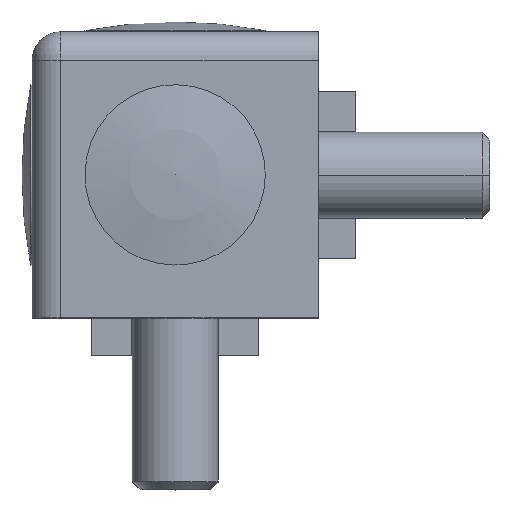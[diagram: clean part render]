
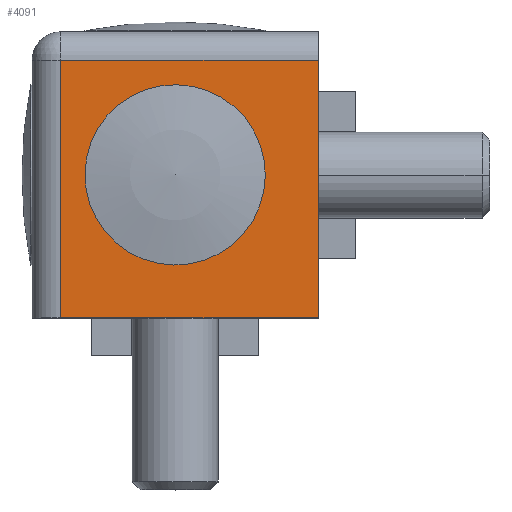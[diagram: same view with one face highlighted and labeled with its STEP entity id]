
A CAD part, top view. The second image highlights one B-rep face of the part: STEP entity #4091.
In plain terms, the highlighted planar face has unit normal (0, 0, 1).
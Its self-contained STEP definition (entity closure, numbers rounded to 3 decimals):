
#68 = CYLINDRICAL_SURFACE('',#69,5.75);
#69 = AXIS2_PLACEMENT_3D('',#70,#71,#72);
#70 = CARTESIAN_POINT('',(10.,-10.,20.));
#71 = DIRECTION('',(0.,0.,1.));
#72 = DIRECTION('',(1.,0.,0.));
#283 = VERTEX_POINT('',#284);
#284 = CARTESIAN_POINT('',(15.75,-10.,20.));
#298 = CYLINDRICAL_SURFACE('',#299,5.75);
#299 = AXIS2_PLACEMENT_3D('',#300,#301,#302);
#300 = CARTESIAN_POINT('',(10.,-10.,20.));
#301 = DIRECTION('',(0.,0.,1.));
#302 = DIRECTION('',(1.,0.,0.));
#310 = EDGE_CURVE('',#311,#283,#313,.T.);
#311 = VERTEX_POINT('',#312);
#312 = CARTESIAN_POINT('',(4.25,-10.,20.));
#313 = SURFACE_CURVE('',#314,(#319,#326),.PCURVE_S1.);
#314 = CIRCLE('',#315,5.75);
#315 = AXIS2_PLACEMENT_3D('',#316,#317,#318);
#316 = CARTESIAN_POINT('',(10.,-10.,20.));
#317 = DIRECTION('',(0.,0.,1.));
#318 = DIRECTION('',(1.,0.,0.));
#319 = PCURVE('',#68,#320);
#320 = DEFINITIONAL_REPRESENTATION('',(#321),#325);
#321 = LINE('',#322,#323);
#322 = CARTESIAN_POINT('',(0.,0.));
#323 = VECTOR('',#324,1.);
#324 = DIRECTION('',(1.,0.));
#325 = ( GEOMETRIC_REPRESENTATION_CONTEXT(2) 
PARAMETRIC_REPRESENTATION_CONTEXT() REPRESENTATION_CONTEXT('2D SPACE',''
  ) );
#326 = PCURVE('',#327,#332);
#327 = PLANE('',#328);
#328 = AXIS2_PLACEMENT_3D('',#329,#330,#331);
#329 = CARTESIAN_POINT('',(0.,-20.,20.));
#330 = DIRECTION('',(0.,0.,1.));
#331 = DIRECTION('',(1.,0.,0.));
#332 = DEFINITIONAL_REPRESENTATION('',(#333),#337);
#333 = CIRCLE('',#334,5.75);
#334 = AXIS2_PLACEMENT_2D('',#335,#336);
#335 = CARTESIAN_POINT('',(10.,10.));
#336 = DIRECTION('',(1.,0.));
#337 = ( GEOMETRIC_REPRESENTATION_CONTEXT(2) 
PARAMETRIC_REPRESENTATION_CONTEXT() REPRESENTATION_CONTEXT('2D SPACE',''
  ) );
#1490 = PLANE('',#1491);
#1491 = AXIS2_PLACEMENT_3D('',#1492,#1493,#1494);
#1492 = CARTESIAN_POINT('',(20.,0.,20.));
#1493 = DIRECTION('',(-1.,0.,0.));
#1494 = DIRECTION('',(0.,-1.,0.));
#1654 = PLANE('',#1655);
#1655 = AXIS2_PLACEMENT_3D('',#1656,#1657,#1658);
#1656 = CARTESIAN_POINT('',(0.,-20.,20.));
#1657 = DIRECTION('',(0.,1.,0.));
#1658 = DIRECTION('',(0.,0.,1.));
#2191 = VERTEX_POINT('',#2192);
#2192 = CARTESIAN_POINT('',(20.,-20.,20.));
#2213 = EDGE_CURVE('',#2214,#2191,#2216,.T.);
#2214 = VERTEX_POINT('',#2215);
#2215 = CARTESIAN_POINT('',(2.,-20.,20.));
#2216 = SURFACE_CURVE('',#2217,(#2221,#2228),.PCURVE_S1.);
#2217 = LINE('',#2218,#2219);
#2218 = CARTESIAN_POINT('',(0.,-20.,20.));
#2219 = VECTOR('',#2220,1.);
#2220 = DIRECTION('',(1.,0.,0.));
#2221 = PCURVE('',#1654,#2222);
#2222 = DEFINITIONAL_REPRESENTATION('',(#2223),#2227);
#2223 = LINE('',#2224,#2225);
#2224 = CARTESIAN_POINT('',(0.,0.));
#2225 = VECTOR('',#2226,1.);
#2226 = DIRECTION('',(0.,1.));
#2227 = ( GEOMETRIC_REPRESENTATION_CONTEXT(2) 
PARAMETRIC_REPRESENTATION_CONTEXT() REPRESENTATION_CONTEXT('2D SPACE',''
  ) );
#2228 = PCURVE('',#327,#2229);
#2229 = DEFINITIONAL_REPRESENTATION('',(#2230),#2234);
#2230 = LINE('',#2231,#2232);
#2231 = CARTESIAN_POINT('',(0.,0.));
#2232 = VECTOR('',#2233,1.);
#2233 = DIRECTION('',(1.,0.));
#2234 = ( GEOMETRIC_REPRESENTATION_CONTEXT(2) 
PARAMETRIC_REPRESENTATION_CONTEXT() REPRESENTATION_CONTEXT('2D SPACE',''
  ) );
#2257 = CYLINDRICAL_SURFACE('',#2258,2.);
#2258 = AXIS2_PLACEMENT_3D('',#2259,#2260,#2261);
#2259 = CARTESIAN_POINT('',(2.,-20.,18.));
#2260 = DIRECTION('',(0.,1.,0.));
#2261 = DIRECTION('',(-1.,0.,0.));
#3533 = VERTEX_POINT('',#3534);
#3534 = CARTESIAN_POINT('',(20.,-2.,20.));
#3553 = CYLINDRICAL_SURFACE('',#3554,2.);
#3554 = AXIS2_PLACEMENT_3D('',#3555,#3556,#3557);
#3555 = CARTESIAN_POINT('',(0.,-2.,18.));
#3556 = DIRECTION('',(1.,0.,0.));
#3557 = DIRECTION('',(0.,0.,-1.));
#3565 = EDGE_CURVE('',#2191,#3533,#3566,.T.);
#3566 = SURFACE_CURVE('',#3567,(#3571,#3578),.PCURVE_S1.);
#3567 = LINE('',#3568,#3569);
#3568 = CARTESIAN_POINT('',(20.,0.,20.));
#3569 = VECTOR('',#3570,1.);
#3570 = DIRECTION('',(0.,1.,0.));
#3571 = PCURVE('',#1490,#3572);
#3572 = DEFINITIONAL_REPRESENTATION('',(#3573),#3577);
#3573 = LINE('',#3574,#3575);
#3574 = CARTESIAN_POINT('',(0.,0.));
#3575 = VECTOR('',#3576,1.);
#3576 = DIRECTION('',(-1.,0.));
#3577 = ( GEOMETRIC_REPRESENTATION_CONTEXT(2) 
PARAMETRIC_REPRESENTATION_CONTEXT() REPRESENTATION_CONTEXT('2D SPACE',''
  ) );
#3578 = PCURVE('',#327,#3579);
#3579 = DEFINITIONAL_REPRESENTATION('',(#3580),#3584);
#3580 = LINE('',#3581,#3582);
#3581 = CARTESIAN_POINT('',(20.,20.));
#3582 = VECTOR('',#3583,1.);
#3583 = DIRECTION('',(0.,1.));
#3584 = ( GEOMETRIC_REPRESENTATION_CONTEXT(2) 
PARAMETRIC_REPRESENTATION_CONTEXT() REPRESENTATION_CONTEXT('2D SPACE',''
  ) );
#4091 = ADVANCED_FACE('',(#4092,#4117),#327,.T.);
#4092 = FACE_BOUND('',#4093,.T.);
#4093 = EDGE_LOOP('',(#4094,#4116));
#4094 = ORIENTED_EDGE('',*,*,#4095,.F.);
#4095 = EDGE_CURVE('',#283,#311,#4096,.T.);
#4096 = SURFACE_CURVE('',#4097,(#4102,#4109),.PCURVE_S1.);
#4097 = CIRCLE('',#4098,5.75);
#4098 = AXIS2_PLACEMENT_3D('',#4099,#4100,#4101);
#4099 = CARTESIAN_POINT('',(10.,-10.,20.));
#4100 = DIRECTION('',(0.,0.,1.));
#4101 = DIRECTION('',(1.,0.,0.));
#4102 = PCURVE('',#327,#4103);
#4103 = DEFINITIONAL_REPRESENTATION('',(#4104),#4108);
#4104 = CIRCLE('',#4105,5.75);
#4105 = AXIS2_PLACEMENT_2D('',#4106,#4107);
#4106 = CARTESIAN_POINT('',(10.,10.));
#4107 = DIRECTION('',(1.,0.));
#4108 = ( GEOMETRIC_REPRESENTATION_CONTEXT(2) 
PARAMETRIC_REPRESENTATION_CONTEXT() REPRESENTATION_CONTEXT('2D SPACE',''
  ) );
#4109 = PCURVE('',#298,#4110);
#4110 = DEFINITIONAL_REPRESENTATION('',(#4111),#4115);
#4111 = LINE('',#4112,#4113);
#4112 = CARTESIAN_POINT('',(0.,0.));
#4113 = VECTOR('',#4114,1.);
#4114 = DIRECTION('',(1.,0.));
#4115 = ( GEOMETRIC_REPRESENTATION_CONTEXT(2) 
PARAMETRIC_REPRESENTATION_CONTEXT() REPRESENTATION_CONTEXT('2D SPACE',''
  ) );
#4116 = ORIENTED_EDGE('',*,*,#310,.F.);
#4117 = FACE_BOUND('',#4118,.T.);
#4118 = EDGE_LOOP('',(#4119,#4120,#4143,#4164));
#4119 = ORIENTED_EDGE('',*,*,#3565,.T.);
#4120 = ORIENTED_EDGE('',*,*,#4121,.T.);
#4121 = EDGE_CURVE('',#3533,#4122,#4124,.T.);
#4122 = VERTEX_POINT('',#4123);
#4123 = CARTESIAN_POINT('',(2.,-2.,20.));
#4124 = SURFACE_CURVE('',#4125,(#4129,#4136),.PCURVE_S1.);
#4125 = LINE('',#4126,#4127);
#4126 = CARTESIAN_POINT('',(0.,-2.,20.));
#4127 = VECTOR('',#4128,1.);
#4128 = DIRECTION('',(-1.,0.,0.));
#4129 = PCURVE('',#327,#4130);
#4130 = DEFINITIONAL_REPRESENTATION('',(#4131),#4135);
#4131 = LINE('',#4132,#4133);
#4132 = CARTESIAN_POINT('',(0.,18.));
#4133 = VECTOR('',#4134,1.);
#4134 = DIRECTION('',(-1.,0.));
#4135 = ( GEOMETRIC_REPRESENTATION_CONTEXT(2) 
PARAMETRIC_REPRESENTATION_CONTEXT() REPRESENTATION_CONTEXT('2D SPACE',''
  ) );
#4136 = PCURVE('',#3553,#4137);
#4137 = DEFINITIONAL_REPRESENTATION('',(#4138),#4142);
#4138 = LINE('',#4139,#4140);
#4139 = CARTESIAN_POINT('',(3.142,0.));
#4140 = VECTOR('',#4141,1.);
#4141 = DIRECTION('',(0.,-1.));
#4142 = ( GEOMETRIC_REPRESENTATION_CONTEXT(2) 
PARAMETRIC_REPRESENTATION_CONTEXT() REPRESENTATION_CONTEXT('2D SPACE',''
  ) );
#4143 = ORIENTED_EDGE('',*,*,#4144,.T.);
#4144 = EDGE_CURVE('',#4122,#2214,#4145,.T.);
#4145 = SURFACE_CURVE('',#4146,(#4150,#4157),.PCURVE_S1.);
#4146 = LINE('',#4147,#4148);
#4147 = CARTESIAN_POINT('',(2.,-20.,20.));
#4148 = VECTOR('',#4149,1.);
#4149 = DIRECTION('',(0.,-1.,0.));
#4150 = PCURVE('',#327,#4151);
#4151 = DEFINITIONAL_REPRESENTATION('',(#4152),#4156);
#4152 = LINE('',#4153,#4154);
#4153 = CARTESIAN_POINT('',(2.,0.));
#4154 = VECTOR('',#4155,1.);
#4155 = DIRECTION('',(0.,-1.));
#4156 = ( GEOMETRIC_REPRESENTATION_CONTEXT(2) 
PARAMETRIC_REPRESENTATION_CONTEXT() REPRESENTATION_CONTEXT('2D SPACE',''
  ) );
#4157 = PCURVE('',#2257,#4158);
#4158 = DEFINITIONAL_REPRESENTATION('',(#4159),#4163);
#4159 = LINE('',#4160,#4161);
#4160 = CARTESIAN_POINT('',(1.571,0.));
#4161 = VECTOR('',#4162,1.);
#4162 = DIRECTION('',(0.,-1.));
#4163 = ( GEOMETRIC_REPRESENTATION_CONTEXT(2) 
PARAMETRIC_REPRESENTATION_CONTEXT() REPRESENTATION_CONTEXT('2D SPACE',''
  ) );
#4164 = ORIENTED_EDGE('',*,*,#2213,.T.);
